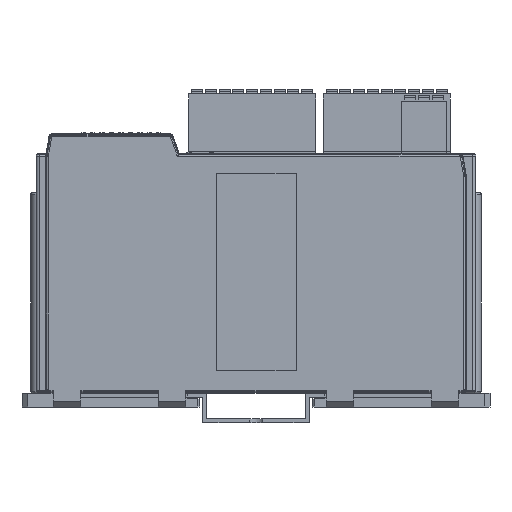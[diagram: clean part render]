
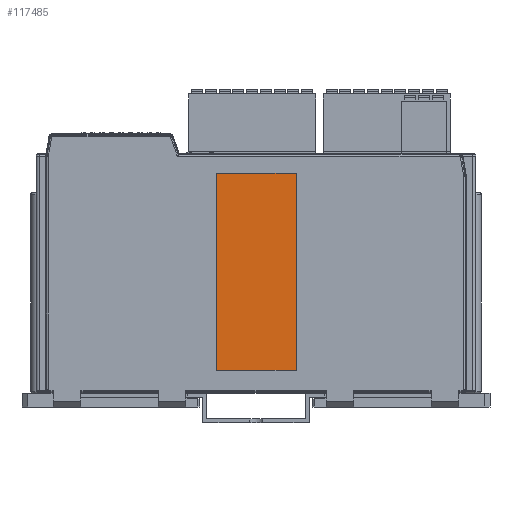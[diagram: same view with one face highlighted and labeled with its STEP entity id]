
A CAD part, left-side view. The second image highlights one B-rep face of the part: STEP entity #117485.
In plain terms, the highlighted planar face has unit normal (-1, 0, 0).
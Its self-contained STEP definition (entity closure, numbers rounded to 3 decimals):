
#27691 = CARTESIAN_POINT ( 'NONE',  ( -10.45, 10., 5.8 ) ) ;
#27999 = LINE ( 'NONE', #34624, #133539 ) ;
#34624 = CARTESIAN_POINT ( 'NONE',  ( -10.45, 10., 5.8 ) ) ;
#41059 = VECTOR ( 'NONE', #47498, 1000. ) ;
#42287 = ORIENTED_EDGE ( 'NONE', *, *, #45468, .T. ) ;
#45468 = EDGE_CURVE ( 'NONE', #85556, #53874, #78607, .T. ) ;
#46446 = CARTESIAN_POINT ( 'NONE',  ( -10.45, -10.2, 5.8 ) ) ;
#47498 = DIRECTION ( 'NONE',  ( 0., -1., 0. ) ) ;
#49770 = CARTESIAN_POINT ( 'NONE',  ( -10.45, -10.2, 56. ) ) ;
#50453 = VECTOR ( 'NONE', #111741, 1000. ) ;
#53874 = VERTEX_POINT ( 'NONE', #125722 ) ;
#56142 = CARTESIAN_POINT ( 'NONE',  ( -10.45, 0., 0. ) ) ;
#59263 = CARTESIAN_POINT ( 'NONE',  ( -10.45, 10., 5.8 ) ) ;
#71928 = EDGE_CURVE ( 'NONE', #53874, #108790, #27999, .T. ) ;
#73731 = CARTESIAN_POINT ( 'NONE',  ( -10.45, -10.2, 5.8 ) ) ;
#78607 = LINE ( 'NONE', #122596, #50453 ) ;
#80393 = ORIENTED_EDGE ( 'NONE', *, *, #71928, .T. ) ;
#81095 = VECTOR ( 'NONE', #113711, 1000. ) ;
#84082 = AXIS2_PLACEMENT_3D ( 'NONE', #56142, #89066, #145139 ) ;
#85556 = VERTEX_POINT ( 'NONE', #49770 ) ;
#87887 = VERTEX_POINT ( 'NONE', #73731 ) ;
#89066 = DIRECTION ( 'NONE',  ( -1., 0., 0. ) ) ;
#91735 = EDGE_LOOP ( 'NONE', ( #134968, #111697, #42287, #80393 ) ) ;
#103941 = LINE ( 'NONE', #46446, #81095 ) ;
#106160 = LINE ( 'NONE', #59263, #41059 ) ;
#108790 = VERTEX_POINT ( 'NONE', #27691 ) ;
#111697 = ORIENTED_EDGE ( 'NONE', *, *, #113653, .T. ) ;
#111741 = DIRECTION ( 'NONE',  ( 0., 1., 0. ) ) ;
#112572 = PLANE ( 'NONE',  #84082 ) ;
#113653 = EDGE_CURVE ( 'NONE', #87887, #85556, #103941, .T. ) ;
#113711 = DIRECTION ( 'NONE',  ( 0., 0., 1. ) ) ;
#117485 = ADVANCED_FACE ( 'NONE', ( #144106 ), #112572, .T. ) ;
#122596 = CARTESIAN_POINT ( 'NONE',  ( -10.45, 10., 56. ) ) ;
#125722 = CARTESIAN_POINT ( 'NONE',  ( -10.45, 10., 56. ) ) ;
#133539 = VECTOR ( 'NONE', #134956, 1000. ) ;
#134956 = DIRECTION ( 'NONE',  ( 0., 0., -1. ) ) ;
#134968 = ORIENTED_EDGE ( 'NONE', *, *, #141533, .T. ) ;
#141533 = EDGE_CURVE ( 'NONE', #108790, #87887, #106160, .T. ) ;
#144106 = FACE_OUTER_BOUND ( 'NONE', #91735, .T. ) ;
#145139 = DIRECTION ( 'NONE',  ( 0., 0., 1. ) ) ;
